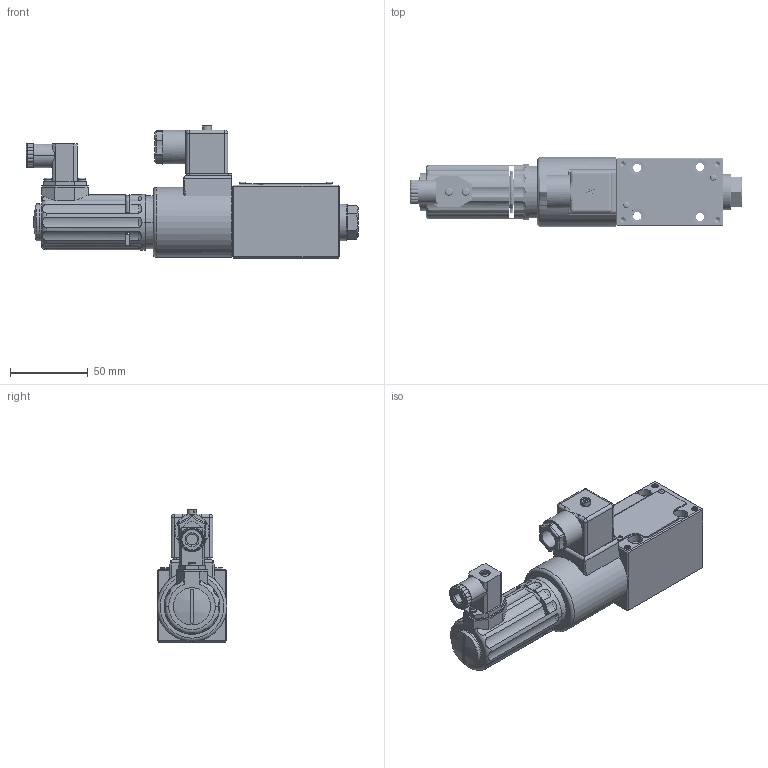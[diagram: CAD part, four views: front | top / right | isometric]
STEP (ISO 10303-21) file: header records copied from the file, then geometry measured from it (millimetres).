
FILE_DESCRIPTION(/* description */ (''),/* implementation_level */ '2;1');
FILE_NAME(/* name */ '4WRE6A-2XJ比例换向阀.prt.stp',/* time_stamp */ '2022-03-30T18:35:47+08:00',/* author */ (''),/* organization */ (''),/* preprocessor_version */ 'ST-DEVELOPER v16.7',/* originating_system */ 'SIEMENS PLM Software NX 12.0',/* authorisation */ '');
FILE_SCHEMA (('AUTOMOTIVE_DESIGN { 1 0 10303 214 3 1 1 1 }'));
Products named in the file (1): 4WRE6A-2XJ比例换向阀
Bounding box: 214 x 45 x 85.89 mm (x, y, z)
Volume: 131975.9 mm3; surface area: 90373.8 mm2
Topology: 25 solids, 27 shells, 920 faces, 2321 edges, 1460 vertices
Faces by surface type: cylinder 391, plane 332, torus 75, bspline 74, cone 29, sphere 19
Full cylindrical faces by diameter (mm): 1.5 x1, 1.8 x4, 2 x8, 2.5 x2, 2.55 x19, 3 x39, 3.2 x59, 3.5 x1, 4 x1, 5.3 x4, 5.5 x2, 6 x11, 6.5 x1, 8 x1, 8.1 x1, 8.7 x2, 9.4 x4, 11 x1, 12.085 x1, 12.2 x7, 14.3 x1, 14.999 x1, 16 x1, 16.999 x1, 17.4 x1, 17.8 x1, 18 x1, 18.376 x3, 20 x1, 21 x2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
Entity records: 65113 total; most frequent: CARTESIAN_POINT 46847, DIRECTION 3652, ORIENTED_EDGE 3528, EDGE_CURVE 1764, AXIS2_PLACEMENT_3D 1438, VERTEX_POINT 1181, EDGE_LOOP 967, ADVANCED_FACE 794
